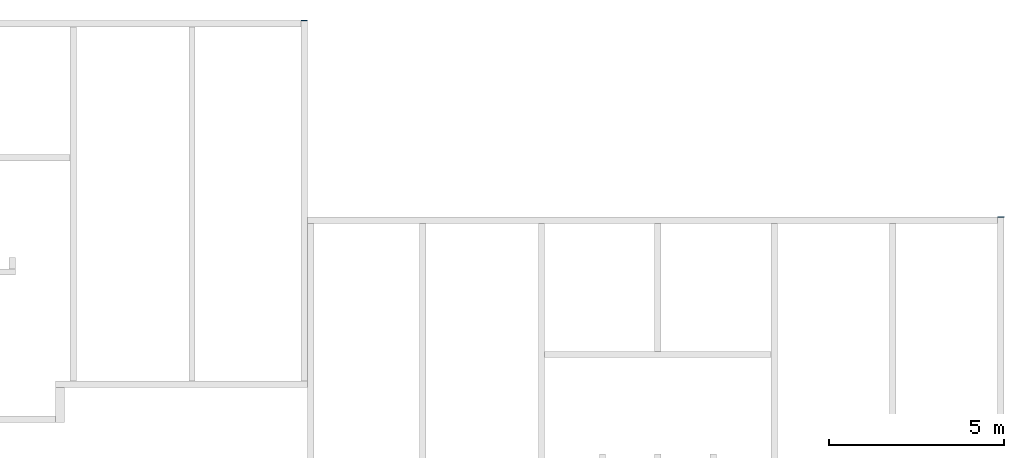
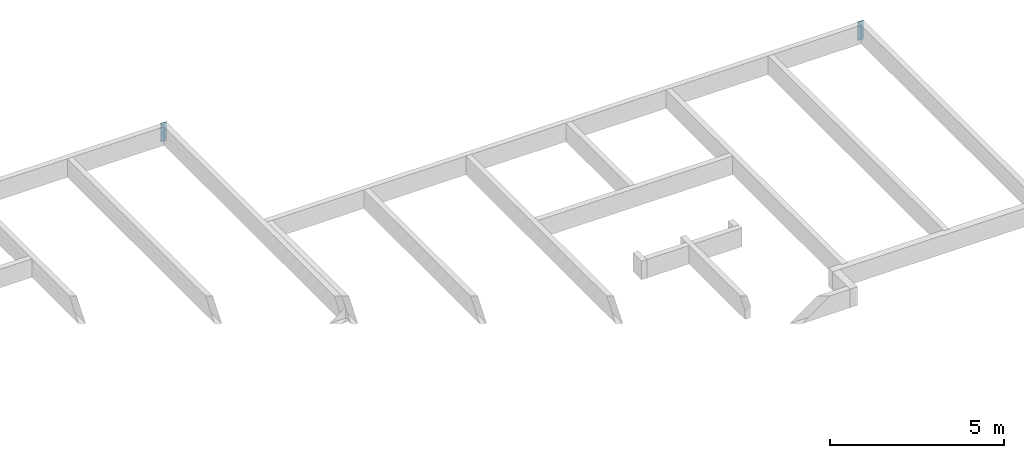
# One storey, part 6 of 6: 2 walls.
"""IFC2X3 building model written with IfcOpenShell, lengths in millimetres."""

from ifc_helpers import new_model, entity, si_unit, converted_unit, frame, frame_2d, origin, place, context, subcontext, project, spatial, rectangle, extrude, material, layer, layer_set, layer_usage, element, save


model = new_model("IFC2X3")

# Units and contexts
model_context = context("Model", 3, precision=1e-05, world=origin())
plan_context = context("Plan", 3, precision=1e-05, world=origin())
body_context = subcontext(model_context, "Body", "Model", "MODEL_VIEW")
ifc_project = project(units=[si_unit("LENGTHUNIT", "METRE", prefix="MILLI"), converted_unit("PLANEANGLEUNIT", "DEGREE", entity("IfcPlaneAngleMeasure", 0.0174532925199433), si_unit("PLANEANGLEUNIT", "RADIAN"), dimensions=[0, 0, 0, 0, 0, 0, 0]), si_unit("AREAUNIT", "SQUARE_METRE"), si_unit("VOLUMEUNIT", "CUBIC_METRE")], contexts=[model_context, plan_context])

# Building, storey
building_placement = place(None, origin())
building = spatial("IfcBuilding", under=ifc_project, at=building_placement, Name="Bâtiment", CompositionType="ELEMENT")
storey_placement = place(building_placement, frame((0.0, 0.0, -850.0), z_axis=(0.0, 0.0, 1.0), x_axis=(1.0, 0.0, 0.0)))
storey = spatial("IfcBuildingStorey", under=building, at=storey_placement, Name="vs", CompositionType="ELEMENT", Elevation=-850.0)

# Walls
ifc_material_1 = material(Name="moellons")
ifc_layer_1 = layer(ifc_material_1, 20.00000000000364)
ifc_layer_set_1 = layer_set([ifc_layer_1])
ifc_layer_usage_1 = layer_usage(ifc_layer_set_1, "AXIS2", "POSITIVE", 0.0)
wall_1_placement = place(storey_placement, frame((39699.99999999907, 10470.07776548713, 0.0), z_axis=(0.0, 0.0, 1.0), x_axis=(-1.0, 0.0, 0.0)))
element("IfcWallStandardCase", 1, at=wall_1_placement, inside=storey, material=ifc_layer_usage_1, context=body_context, shape_type="SweptSolid", body=[
    extrude(rectangle(XDim=180.0, YDim=20.00000000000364, at=frame_2d((90.0, 10.00000000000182), x_axis=(1.0, 0.0))), frame((0.0, -20.00000000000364, 0.0), z_axis=(0.0, 0.0, 1.0), x_axis=(1.0, 0.0, 0.0)), (0.0, 0.0, 1.0), 650.0),
])
ifc_material_2 = material(Name="moellons")
ifc_layer_2 = layer(ifc_material_2, 20.00000000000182)
ifc_layer_set_2 = layer_set([ifc_layer_2])
ifc_layer_usage_2 = layer_usage(ifc_layer_set_2, "AXIS2", "POSITIVE", 0.0)
wall_2_placement = place(storey_placement, frame((59549.99999999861, 4870.077765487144, 0.0), z_axis=(0.0, 0.0, 1.0), x_axis=(-1.0, 0.0, 0.0)))
element("IfcWallStandardCase", 2, at=wall_2_placement, inside=storey, material=ifc_layer_usage_2, context=body_context, shape_type="SweptSolid", body=[
    extrude(rectangle(XDim=180.0, YDim=20.00000000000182, at=frame_2d((90.0, 10.00000000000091), x_axis=(1.0, 0.0))), frame((0.0, -20.00000000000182, 0.0), z_axis=(0.0, 0.0, 1.0), x_axis=(1.0, 0.0, 0.0)), (0.0, 0.0, 1.0), 650.0),
])

save(model, "model.ifc")
